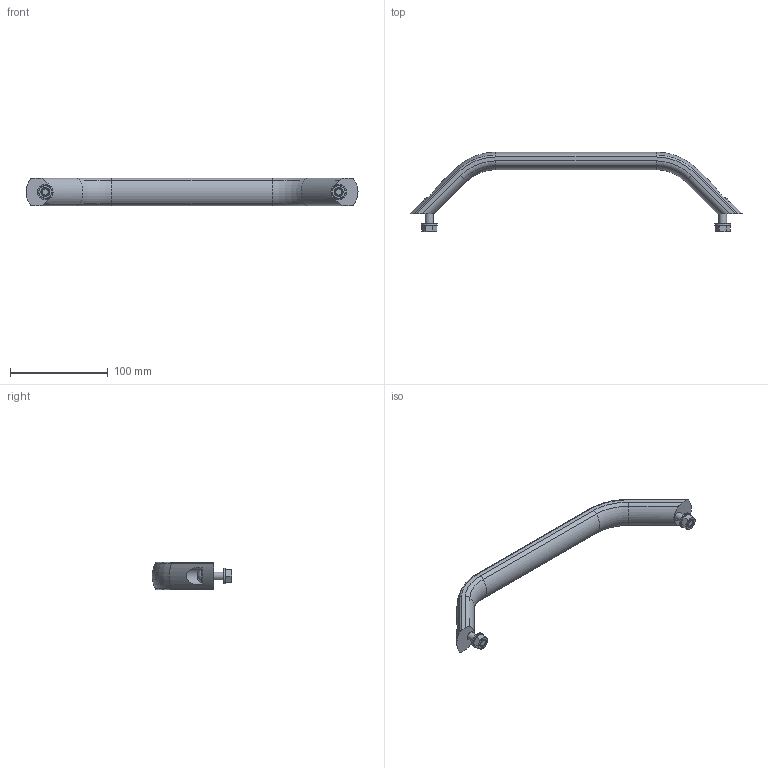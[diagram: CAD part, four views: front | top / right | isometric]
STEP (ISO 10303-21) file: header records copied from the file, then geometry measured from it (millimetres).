
FILE_DESCRIPTION( ( 'STEP AP203' ), '1' );
FILE_NAME( 'C:/Temp/Ganter_Step_05_03_2020/data/1_2/gn_428/gn_428_b/Cabinet U-handle GN 428-AL-28-300-B-SW.stp', '2020-03-05T10:11:35', ( 'License CC BY-ND 4.0' ), ( 'CADENAS' ), ' ', 'PARTsolutions', ' ' );
FILE_SCHEMA( ( 'CONFIG_CONTROL_DESIGN' ) );
Length unit declared in the file: millimetre
Products named in the file (1): _Cabinet U-handle GN 428-AL-28-300-B-SW
Bounding box: 339.43 x 81.4 x 28 mm (x, y, z)
Volume: 147033.1 mm3; surface area: 32345 mm2
Topology: 1 solids, 1 shells, 127 faces, 279 edges, 172 vertices
Faces by surface type: plane 56, cylinder 32, cone 25, torus 12, bspline 2
Full cylindrical faces by diameter (mm): 8 x4, 8.4 x2, 9 x2, 14 x2, 16 x2
Entity records: 3692 total; most frequent: CARTESIAN_POINT 956, DIRECTION 572, ORIENTED_EDGE 514, EDGE_CURVE 257, AXIS2_PLACEMENT_3D 239, VERTEX_POINT 171, EDGE_LOOP 166, FACE_OUTER_BOUND 141
